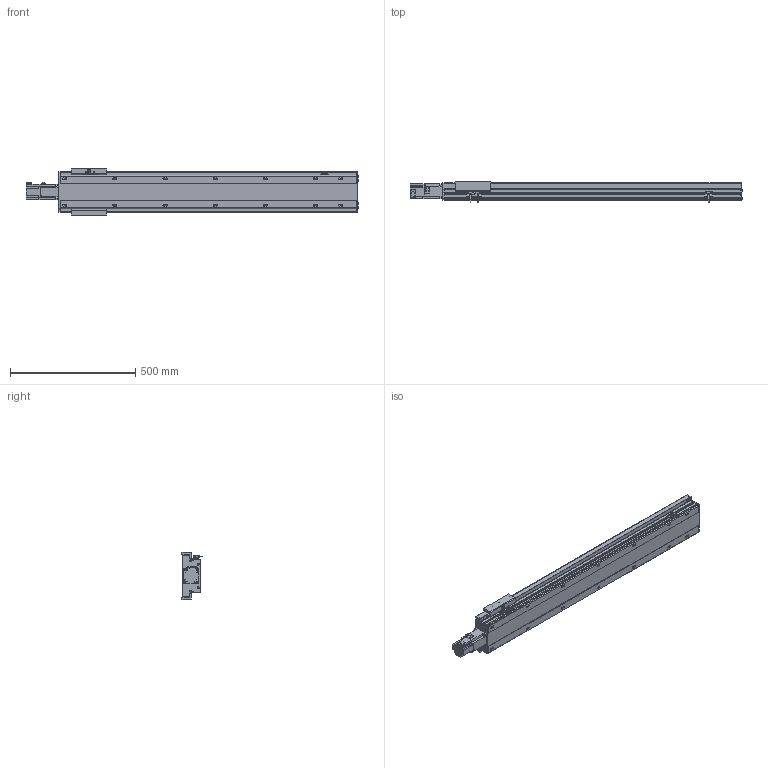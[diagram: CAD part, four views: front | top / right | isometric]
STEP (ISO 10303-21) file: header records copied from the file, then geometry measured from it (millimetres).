
FILE_DESCRIPTION(/* description */ ('STEP AP214'),/* implementation_level */ '2;1');
FILE_NAME(/* name */ 'PSM140-L10-S950-BC-T40-C1-N(0)',/* time_stamp */ '2022-06-13T03:19:51+02:00',/* author */ ('License CC BY-ND 4.0'),/* organization */ ('CADENAS'),/* preprocessor_version */ 'ST-DEVELOPER v18.102',/* originating_system */ 'PARTsolutions',/* authorisation */ ' ');
FILE_SCHEMA (('AUTOMOTIVE_DESIGN {1 0 10303 214 3 1 1}'));
Length unit declared in the file: millimetre
Products named in the file (7): PSM140-L10-S950-BC-T40-C1-N(0); PSM-Sensor; PSM140-S950-1192.5; T40-p1; PSM140_body3; PSM140-S950_body1; PSM140-L10-S950-BC-T40-C1-N(0)_dummy
Assembly tree (10 placements, depth 2):
  PSM140-L10-S950-BC-T40-C1-N(0)
    PSM-Sensor  x3
    PSM140-S950-1192.5  x3
    T40-p1
    PSM140_body3
    PSM140-S950_body1
    PSM140-L10-S950-BC-T40-C1-N(0)_dummy
Bounding box: 1323.7 x 81.3 x 190 mm (x, y, z)
Volume: 5594605.7 mm3; surface area: 1195721.3 mm2
Topology: 9 solids, 9 shells, 976 faces, 2587 edges, 1682 vertices
Faces by surface type: plane 632, cylinder 266, cone 64, torus 14
Full cylindrical faces by diameter (mm): 2.8 x3, 4.5 x12, 4.6 x3, 4.917 x22, 5.5 x7, 5.7 x6, 6 x2, 7 x22, 8 x8, 8.5 x4, 10.5 x14, 14 x1, 50 x1
Entity records: 24984 total; most frequent: CARTESIAN_POINT 4525, DIRECTION 4203, ORIENTED_EDGE 3950, EDGE_CURVE 1975, AXIS2_PLACEMENT_3D 1413, VERTEX_POINT 1392, LINE 1377, VECTOR 1377
